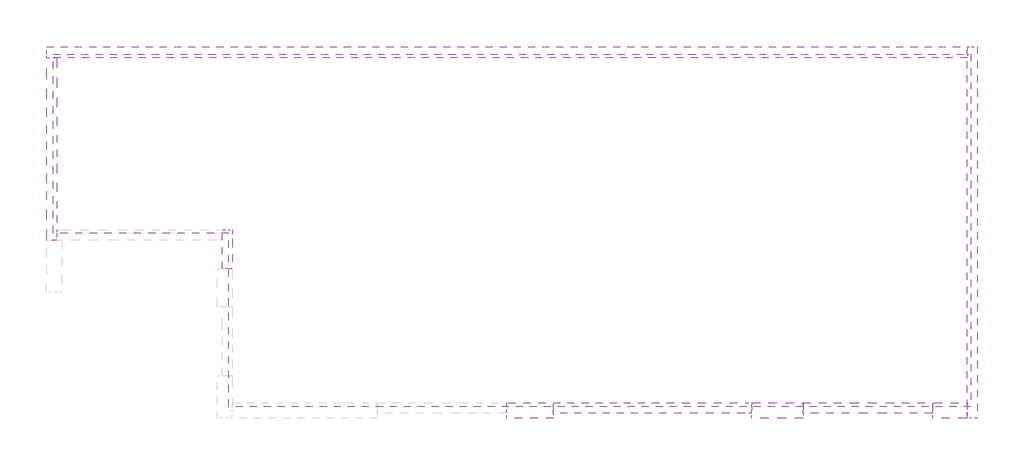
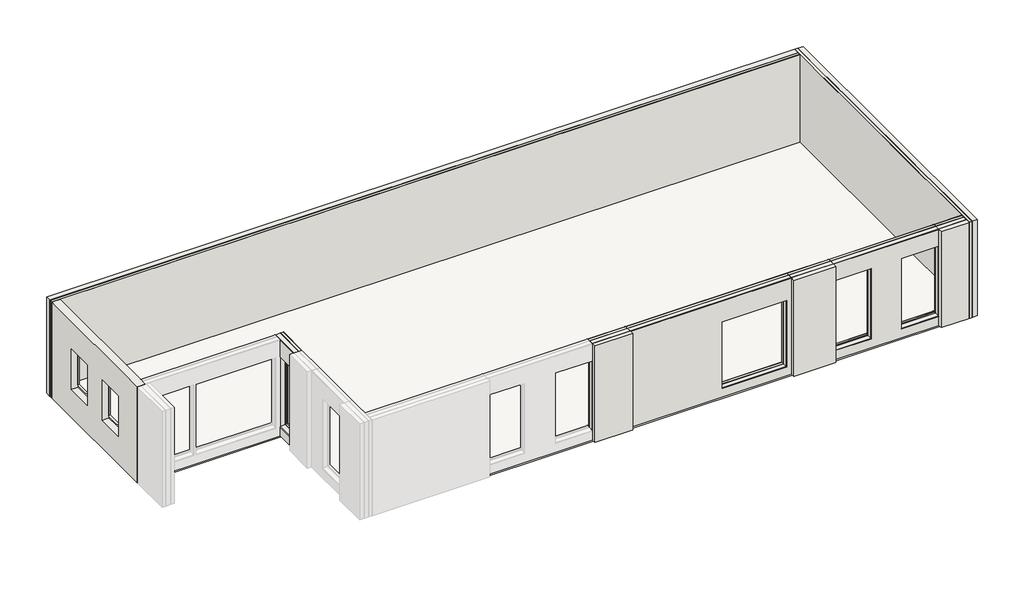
# One storey, part 2 of 2: 9 walls, 1 proxy, 1 slab.
"""IFC4 building model written with IfcOpenShell, lengths in millimetres."""

from ifc_helpers import new_model, si_unit, frame, origin, place, context, project, spatial, polyline, outline, extrude, faceted_brep, element, save

model = new_model("IFC4")

# Units and contexts
model_context = context("Model", 3, world=origin())
ifc_project = project(units=[si_unit("LENGTHUNIT", "METRE", prefix="MILLI")], contexts=[model_context])

# Site, building, storey
site = spatial("IfcSite", under=ifc_project)
building = spatial("IfcBuilding", under=site)
storey = spatial("IfcBuildingStorey", under=building, Name="Dalle T.O.", Elevation=-4000.0)

# Proxy
placement = place(None, origin())
element("IfcBuildingElementProxy", 1, Name="Generic Models", at=placement, inside=storey, context=model_context, shape_type="SweptSolid", body=[
    extrude(outline(polyline([(1777.6156007, -1842.7637486), (1907.6156007, -1842.7637486), (1907.6156007, -14108.5662223), (1777.6156007, -14108.5662223), (1777.6156007, -1842.7637486)])), frame((0.0, 0.0, -400.0), z_axis=(0.0, 0.0, 1.0), x_axis=(1.0, 0.0, 0.0)), (0.0, 0.0, 1.0), 380.0),
])

# Slab
element("IfcSlab", 2, ObjectType="Sols - Sol - A chape 6 + isolant 12 + dalle ba 15 + tout venant 30", at=placement, inside=storey, context=model_context, shape_type="SweptSolid", body=[
    extrude(outline(polyline([(-30017.0149756, -8083.0211289), (-30017.0149756, -1842.7637486), (1907.6156007, -1842.7637486), (1907.6156007, -14108.5662223), (-23908.2803137, -14108.5662223), (-23908.2803137, -8083.0211289), (-30017.0149756, -8083.0211289)])), frame((0.0, 0.0, -80.0), z_axis=(0.0, 0.0, 1.0), x_axis=(1.0, 0.0, 0.0)), (0.0, 0.0, 1.0), 60.0),
    extrude(outline(polyline([(-30017.0149756, -8083.0211289), (-30017.0149756, -1842.7637486), (1907.6156007, -1842.7637486), (1907.6156007, -14108.5662223), (-23908.2803137, -14108.5662223), (-23908.2803137, -8083.0211289), (-30017.0149756, -8083.0211289)])), frame((0.0, 0.0, -200.0), z_axis=(0.0, 0.0, 1.0), x_axis=(1.0, 0.0, 0.0)), (0.0, 0.0, 1.0), 120.0),
    extrude(outline(polyline([(-30017.0149756, -8083.0211289), (-30017.0149756, -1842.7637486), (1907.6156007, -1842.7637486), (1907.6156007, -14108.5662223), (-23908.2803137, -14108.5662223), (-23908.2803137, -8083.0211289), (-30017.0149756, -8083.0211289)])), frame((0.0, 0.0, -350.0), z_axis=(0.0, 0.0, 1.0), x_axis=(1.0, 0.0, 0.0)), (0.0, 0.0, 1.0), 150.0),
    extrude(outline(polyline([(-30017.0149756, -8083.0211289), (-30017.0149756, -1842.7637486), (1907.6156007, -1842.7637486), (1907.6156007, -14108.5662223), (-23908.2803137, -14108.5662223), (-23908.2803137, -8083.0211289), (-30017.0149756, -8083.0211289)])), frame((0.0, 0.0, -650.0), z_axis=(0.0, 0.0, 1.0), x_axis=(1.0, 0.0, 0.0)), (0.0, 0.0, 1.0), 300.0),
])

# Walls
element("IfcWall", 3, ObjectType="Murs - Mur de base - A Enduit 2 + Béton 20 + vide 1 +  Doublage 13", at=placement, inside=storey, context=model_context, shape_type="SweptSolid", body=[
    extrude(outline(polyline([(3950.0, -5718.4606208), (3950.0, -12618.5500393), (-400.0, -12618.5500393), (-400.0, -5718.4606208), (3950.0, -5718.4606208)]), holes=[polyline([(3000.0, -5934.6455383), (0.0, -5934.6455383), (0.0, -8694.6455383), (3000.0, -8694.6455383), (3000.0, -5934.6455383)])]), frame((0.0, -14338.5662223, 0.0), z_axis=(0.0, 1.0, 0.0), x_axis=(0.0, 0.0, 1.0)), (0.0, 0.0, 1.0), 20.0),
    extrude(outline(polyline([(3950.0, -5718.4606208), (3950.0, -12618.5500393), (-400.0, -12618.5500393), (-400.0, -5718.4606208), (3950.0, -5718.4606208)]), holes=[polyline([(3000.0, -5934.6455383), (0.0, -5934.6455383), (0.0, -8694.6455383), (3000.0, -8694.6455383), (3000.0, -5934.6455383)])]), frame((0.0, -14318.5662223, 0.0), z_axis=(0.0, 1.0, 0.0), x_axis=(0.0, 0.0, 1.0)), (0.0, 0.0, 1.0), 200.0),
    extrude(outline(polyline([(3950.0, -5718.4606208), (3950.0, -12618.5500393), (-400.0, -12618.5500393), (-400.0, -5718.4606208), (3950.0, -5718.4606208)]), holes=[polyline([(3000.0, -5934.6455383), (0.0, -5934.6455383), (0.0, -8694.6455383), (3000.0, -8694.6455383), (3000.0, -5934.6455383)])]), frame((0.0, -14118.5662223, 0.0), z_axis=(0.0, 1.0, 0.0), x_axis=(0.0, 0.0, 1.0)), (0.0, 0.0, 1.0), 10.0),
    extrude(outline(polyline([(3950.0, -5718.4606208), (3950.0, -12618.5500393), (-400.0, -12618.5500393), (-400.0, -5718.4606208), (3950.0, -5718.4606208)]), holes=[polyline([(3000.0, -5934.6455383), (0.0, -5934.6455383), (0.0, -8694.6455383), (3000.0, -8694.6455383), (3000.0, -5934.6455383)])]), frame((0.0, -14108.5662223, 0.0), z_axis=(0.0, 1.0, 0.0), x_axis=(0.0, 0.0, 1.0)), (0.0, 0.0, 1.0), 120.0),
    extrude(outline(polyline([(3950.0, -5718.4606208), (3950.0, -12618.5500393), (-400.0, -12618.5500393), (-400.0, -5718.4606208), (3950.0, -5718.4606208)]), holes=[polyline([(3000.0, -5934.6455383), (0.0, -5934.6455383), (0.0, -8694.6455383), (3000.0, -8694.6455383), (3000.0, -5934.6455383)])]), frame((0.0, -13988.5662223, 0.0), z_axis=(0.0, 1.0, 0.0), x_axis=(0.0, 0.0, 1.0)), (0.0, 0.0, 1.0), 10.0),
])
element("IfcWall", 4, ObjectType="Murs - Mur de base - A Enduit 2 + Béton 20 + vide 1 +  Doublage 13", at=placement, inside=storey, context=model_context, shape_type="Brep", body=[
    faceted_brep([(-3920.1625689, -14338.5662223, 3950.0), (577.5549073, -14338.5662223, 3950.0), (577.5549073, -14318.5662223, 3950.0), (-3920.1625689, -14318.5662223, 3950.0), (-3920.1625689, -14338.5662223, -400.0), (-3920.1625689, -14318.5662223, -400.0), (577.5549073, -14318.5662223, -400.0), (577.5549073, -14338.5662223, -400.0), (-3920.1625689, -14338.5662223, 3185.0), (-2320.1625689, -14338.5662223, 3185.0), (-2320.1625689, -14338.5662223, 5.5708141), (-3920.1625689, -14338.5662223, 5.5708141), (577.5549073, -14338.5662223, 5.5708141), (-1022.3843993, -14338.5662223, 5.5708141), (-1022.3843993, -14338.5662223, 3185.0), (577.5549073, -14338.5662223, 3185.0), (577.5549073, -14318.5662223, 3185.0), (577.5549073, -14318.5662223, 7.6728988), (-1022.3843993, -14318.5662223, 3185.0), (-1022.3843993, -14318.5662223, 7.6728988), (-3920.1625689, -14318.5662223, 7.6728988), (-2320.1625689, -14318.5662223, 7.6728988), (-2320.1625689, -14318.5662223, 3185.0), (-3920.1625689, -14318.5662223, 3185.0)], [[[0, 1, 2, 3]], [[4, 5, 6, 7]], [[1, 0, 8, 9, 10, 11, 4, 7, 12, 13, 14, 15]], [[2, 1, 15, 16]], [[7, 6, 17, 12]], [[3, 2, 16, 18, 19, 17, 6, 5, 20, 21, 22, 23]], [[0, 3, 23, 8]], [[5, 4, 11, 20]], [[10, 9, 22, 21]], [[9, 8, 23, 22]], [[11, 10, 21, 20]], [[14, 18, 16, 15]], [[19, 13, 12, 17]], [[18, 14, 13, 19]]]),
    faceted_brep([(-3920.1625689, -14318.5662223, 3950.0), (577.5549073, -14318.5662223, 3950.0), (577.5549073, -14118.5662223, 3950.0), (-3920.1625689, -14118.5662223, 3950.0), (-3920.1625689, -14318.5662223, -400.0), (-3920.1625689, -14118.5662223, -400.0), (577.5549073, -14118.5662223, -400.0), (577.5549073, -14318.5662223, -400.0), (-3920.1625689, -14318.5662223, 3185.0), (-2320.1625689, -14318.5662223, 3185.0), (-2320.1625689, -14318.5662223, 7.6728988), (-3920.1625689, -14318.5662223, 7.6728988), (577.5549073, -14318.5662223, 7.6728988), (-1022.3843993, -14318.5662223, 7.6728988), (-1022.3843993, -14318.5662223, 3185.0), (577.5549073, -14318.5662223, 3185.0), (577.5549073, -14118.5662223, 3185.0), (577.5549073, -14118.5662223, 28.6937459), (-1022.3843993, -14118.5662223, 3185.0), (-1022.3843993, -14118.5662223, 28.6937459), (-3920.1625689, -14118.5662223, 28.6937459), (-2320.1625689, -14118.5662223, 28.6937459), (-2320.1625689, -14118.5662223, 3185.0), (-3920.1625689, -14118.5662223, 3185.0)], [[[0, 1, 2, 3]], [[4, 5, 6, 7]], [[1, 0, 8, 9, 10, 11, 4, 7, 12, 13, 14, 15]], [[2, 1, 15, 16]], [[7, 6, 17, 12]], [[3, 2, 16, 18, 19, 17, 6, 5, 20, 21, 22, 23]], [[0, 3, 23, 8]], [[5, 4, 11, 20]], [[10, 9, 22, 21]], [[9, 8, 23, 22]], [[11, 10, 21, 20]], [[14, 18, 16, 15]], [[19, 13, 12, 17]], [[18, 14, 13, 19]]]),
    faceted_brep([(-3920.1625689, -14118.5662223, 3950.0), (577.5549073, -14118.5662223, 3950.0), (577.5549073, -14108.5662223, 3950.0), (-3920.1625689, -14108.5662223, 3950.0), (-3920.1625689, -14118.5662223, -400.0), (-3920.1625689, -14108.5662223, -400.0), (577.5549073, -14108.5662223, -400.0), (577.5549073, -14118.5662223, -400.0), (-3920.1625689, -14118.5662223, 3185.0), (-2320.1625689, -14118.5662223, 3185.0), (-2320.1625689, -14118.5662223, 28.6937459), (-3920.1625689, -14118.5662223, 28.6937459), (577.5549073, -14118.5662223, 28.6937459), (-1022.3843993, -14118.5662223, 28.6937459), (-1022.3843993, -14118.5662223, 3185.0), (577.5549073, -14118.5662223, 3185.0), (577.5549073, -14108.5662223, 3185.0), (577.5549073, -14108.5662223, 29.7447882), (-1022.3843993, -14108.5662223, 3185.0), (-1022.3843993, -14108.5662223, 29.7447882), (-3920.1625689, -14108.5662223, 29.7447882), (-2320.1625689, -14108.5662223, 29.7447882), (-2320.1625689, -14108.5662223, 3185.0), (-3920.1625689, -14108.5662223, 3185.0)], [[[0, 1, 2, 3]], [[4, 5, 6, 7]], [[1, 0, 8, 9, 10, 11, 4, 7, 12, 13, 14, 15]], [[2, 1, 15, 16]], [[7, 6, 17, 12]], [[3, 2, 16, 18, 19, 17, 6, 5, 20, 21, 22, 23]], [[0, 3, 23, 8]], [[5, 4, 11, 20]], [[10, 9, 22, 21]], [[9, 8, 23, 22]], [[11, 10, 21, 20]], [[14, 18, 16, 15]], [[19, 13, 12, 17]], [[18, 14, 13, 19]]]),
    faceted_brep([(-3920.1625689, -14108.5662223, 3950.0), (577.5549073, -14108.5662223, 3950.0), (577.5549073, -13988.5662223, 3950.0), (-3920.1625689, -13988.5662223, 3950.0), (-3920.1625689, -14108.5662223, -400.0), (-3920.1625689, -13988.5662223, -400.0), (577.5549073, -13988.5662223, -400.0), (577.5549073, -14108.5662223, -400.0), (-3920.1625689, -14108.5662223, 3185.0), (-2320.1625689, -14108.5662223, 3185.0), (-2320.1625689, -14108.5662223, 29.7447882), (-3920.1625689, -14108.5662223, 29.7447882), (577.5549073, -14108.5662223, 29.7447882), (-1022.1343993, -14108.5662223, 29.7447882), (-1022.1343993, -14108.5662223, 3185.0), (577.5549073, -14108.5662223, 3185.0), (577.5549073, -14078.5662223, 3185.0), (577.5549073, -14078.5662223, 3195.0), (577.5549073, -14028.5662223, 3195.0), (577.5549073, -14028.5662223, 3235.0), (577.5549073, -13988.5662223, 3235.0), (577.5549073, -13988.5662223, 35.0), (577.5549073, -14058.5662223, 35.0), (-1072.1343993, -13988.5662223, 3235.0), (-1072.1343993, -13988.5662223, 35.0), (-3920.1625689, -13988.5662223, 35.0), (-2270.1625689, -13988.5662223, 35.0), (-2270.1625689, -13988.5662223, 3235.0), (-3920.1625689, -13988.5662223, 3235.0), (-3920.1625689, -14028.5662223, 3235.0), (-3920.1625689, -14028.5662223, 3195.0), (-3920.1625689, -14078.5662223, 3195.0), (-3920.1625689, -14078.5662223, 3185.0), (-3920.1625689, -14058.5662223, 35.0), (-2320.1625689, -14078.5662223, 3185.0), (-2320.1625689, -14078.5662223, 35.0), (-2320.1625689, -14058.5662223, 35.0), (-2310.1625689, -14078.5662223, 35.0), (-2310.1625689, -14028.5662223, 35.0), (-2270.1625689, -14028.5662223, 35.0), (-2270.1625689, -14028.5662223, 3235.0), (-2310.1625689, -14028.5662223, 3195.0), (-2310.1625689, -14078.5662223, 3195.0), (-1022.1343993, -14078.5662223, 35.0), (-1022.1343993, -14058.5662223, 35.0), (-1072.1343993, -14028.5662223, 35.0), (-1032.1343993, -14028.5662223, 35.0), (-1032.1343993, -14078.5662223, 35.0), (-1022.1343993, -14078.5662223, 3185.0), (-1072.1343993, -14028.5662223, 3235.0), (-1032.1343993, -14028.5662223, 3195.0), (-1032.1343993, -14078.5662223, 3195.0)], [[[0, 1, 2, 3]], [[4, 5, 6, 7]], [[1, 0, 8, 9, 10, 11, 4, 7, 12, 13, 14, 15]], [[2, 1, 15, 16, 17, 18, 19, 20]], [[7, 6, 21, 22, 12]], [[3, 2, 20, 23, 24, 21, 6, 5, 25, 26, 27, 28]], [[0, 3, 28, 29, 30, 31, 32, 8]], [[5, 4, 11, 33, 25]], [[10, 9, 34, 35, 36]], [[26, 25, 33, 36, 35, 37, 38, 39]], [[9, 8, 32, 34]], [[11, 10, 36, 33]], [[27, 26, 39, 40]], [[30, 29, 40, 39, 38, 41]], [[38, 37, 42, 41]], [[32, 31, 42, 37, 35, 34]], [[28, 27, 40, 29]], [[31, 30, 41, 42]], [[43, 44, 22, 21, 24, 45, 46, 47]], [[14, 48, 16, 15]], [[22, 44, 13, 12]], [[46, 45, 49, 19, 18, 50]], [[43, 47, 51, 17, 16, 48]], [[19, 49, 23, 20]], [[51, 50, 18, 17]], [[49, 45, 24, 23]], [[47, 46, 50, 51]], [[44, 43, 48, 14, 13]]]),
    faceted_brep([(-3920.1625689, -13988.5662223, 3950.0), (577.5549073, -13988.5662223, 3950.0), (577.5549073, -13978.5662223, 3950.0), (-3920.1625689, -13978.5662223, 3950.0), (-3920.1625689, -13988.5662223, -400.0), (-3920.1625689, -13978.5662223, -400.0), (577.5549073, -13978.5662223, -400.0), (577.5549073, -13988.5662223, -400.0), (-3920.1625689, -13988.5662223, 3235.0), (-2270.1625689, -13988.5662223, 3235.0), (-2270.1625689, -13988.5662223, 35.0), (-3920.1625689, -13988.5662223, 35.0), (577.5549073, -13988.5662223, 35.0), (-1072.3843993, -13988.5662223, 35.0), (-1072.3843993, -13988.5662223, 3235.0), (577.5549073, -13988.5662223, 3235.0), (577.5549073, -13978.5662223, 3235.0), (577.5549073, -13978.5662223, 35.0), (-1072.3843993, -13978.5662223, 3235.0), (-1072.3843993, -13978.5662223, 35.0), (-1022.3843993, -13978.5662223, 35.0), (-3920.1625689, -13978.5662223, 35.0), (-2320.1625689, -13978.5662223, 35.0), (-2270.1625689, -13978.5662223, 35.0), (-2270.1625689, -13978.5662223, 3235.0), (-3920.1625689, -13978.5662223, 3235.0)], [[[0, 1, 2, 3]], [[4, 5, 6, 7]], [[1, 0, 8, 9, 10, 11, 4, 7, 12, 13, 14, 15]], [[2, 1, 15, 16]], [[7, 6, 17, 12]], [[3, 2, 16, 18, 19, 20, 17, 6, 5, 21, 22, 23, 24, 25]], [[0, 3, 25, 8]], [[5, 4, 11, 21]], [[11, 10, 23, 22, 21]], [[10, 9, 24, 23]], [[9, 8, 25, 24]], [[19, 13, 12, 17, 20]], [[14, 18, 16, 15]], [[13, 19, 18, 14]]]),
])
element("IfcWall", 5, ObjectType="Murs - Mur de base - A  Béton 22 + vide 1 +  Doublage 14", at=placement, inside=storey, context=model_context, shape_type="SweptSolid", body=[
    extrude(outline(polyline([(2137.6156007, -14508.5662223), (1917.6156007, -14508.5662223), (1917.6156007, -1582.7637486), (2137.6156007, -1582.7637486), (2137.6156007, -14508.5662223)])), frame((0.0, 0.0, -400.0), z_axis=(0.0, 0.0, 1.0), x_axis=(1.0, 0.0, 0.0)), (0.0, 0.0, 1.0), 4350.0),
    extrude(outline(polyline([(1917.6156007, -14508.5662223), (1907.6156007, -14508.5662223), (1907.6156007, -1582.7637486), (1917.6156007, -1582.7637486), (1917.6156007, -14508.5662223)])), frame((0.0, 0.0, -400.0), z_axis=(0.0, 0.0, 1.0), x_axis=(1.0, 0.0, 0.0)), (0.0, 0.0, 1.0), 4350.0),
    extrude(outline(polyline([(-14508.5662223, 3950.0), (-1582.7637486, 3950.0), (-1582.7637486, -400.0), (-1842.7637486, -400.0), (-1842.7637486, -20.0), (-14108.5662223, -20.0), (-14108.5662223, -400.0), (-14508.5662223, -400.0), (-14508.5662223, 3950.0)])), frame((1787.6156007, 0.0, 0.0), z_axis=(1.0, 0.0, 0.0), x_axis=(0.0, 1.0, 0.0)), (0.0, 0.0, 1.0), 120.0),
    extrude(outline(polyline([(-14508.5662223, 3950.0), (-1582.7637486, 3950.0), (-1582.7637486, -400.0), (-1842.7637486, -400.0), (-1842.7637486, -20.0), (-14108.5662223, -20.0), (-14108.5662223, -400.0), (-14508.5662223, -400.0), (-14508.5662223, 3950.0)])), frame((1777.6156007, 0.0, 0.0), z_axis=(1.0, 0.0, 0.0), x_axis=(0.0, 1.0, 0.0)), (0.0, 0.0, 1.0), 10.0),
])
element("IfcWall", 6, ObjectType="Murs - Mur de base - A Parement pierre 19 + Béton 20 + vide 1 +   Doublage 14", at=placement, inside=storey, context=model_context, shape_type="SolidModel", body=[
    faceted_brep([(-5718.4606208, -14508.5662223, 3950.0), (-3920.1625689, -14508.5662223, 3950.0), (-3920.1625689, -14318.5662223, 3950.0), (-5718.4606208, -14318.5662223, 3950.0), (-5718.4606208, -14508.5662223, -400.0), (-5718.4606208, -14318.5662223, -400.0), (-3920.1625689, -14318.5662223, -400.0), (-3920.1625689, -14508.5662223, -400.0), (-3920.1625689, -14508.5662223, 0.0), (-3920.1625689, -14508.5662223, 3185.0), (-3920.1625689, -14318.5662223, 7.6728988), (-3920.1625689, -14318.5662223, 3185.0)], [[[0, 1, 2, 3]], [[4, 5, 6, 7]], [[1, 0, 4, 7, 8, 9]], [[2, 1, 9, 8, 7, 6, 10, 11]], [[3, 2, 11, 10, 6, 5]], [[0, 3, 5, 4]]]),
    faceted_brep([(-5718.4606208, -14318.5662223, 3950.0), (-3920.1625689, -14318.5662223, 3950.0), (-3920.1625689, -14118.5662223, 3950.0), (-5718.4606208, -14118.5662223, 3950.0), (-5718.4606208, -14318.5662223, -400.0), (-5718.4606208, -14118.5662223, -400.0), (-3920.1625689, -14118.5662223, -400.0), (-3920.1625689, -14318.5662223, -400.0), (-3920.1625689, -14318.5662223, 7.6728988), (-3920.1625689, -14318.5662223, 3185.0), (-3920.1625689, -14118.5662223, 28.6937459), (-3920.1625689, -14118.5662223, 3185.0)], [[[0, 1, 2, 3]], [[4, 5, 6, 7]], [[1, 0, 4, 7, 8, 9]], [[2, 1, 9, 8, 7, 6, 10, 11]], [[3, 2, 11, 10, 6, 5]], [[0, 3, 5, 4]]]),
    faceted_brep([(-5718.4606208, -14118.5662223, 3950.0), (-3920.1625689, -14118.5662223, 3950.0), (-3920.1625689, -14108.5662223, 3950.0), (-5718.4606208, -14108.5662223, 3950.0), (-5718.4606208, -14118.5662223, -400.0), (-5718.4606208, -14108.5662223, -400.0), (-3920.1625689, -14108.5662223, -400.0), (-3920.1625689, -14118.5662223, -400.0), (-3920.1625689, -14118.5662223, 28.6937459), (-3920.1625689, -14118.5662223, 3185.0), (-3920.1625689, -14108.5662223, 29.7447882), (-3920.1625689, -14108.5662223, 3185.0)], [[[0, 1, 2, 3]], [[4, 5, 6, 7]], [[1, 0, 4, 7, 8, 9]], [[2, 1, 9, 8, 7, 6, 10, 11]], [[3, 2, 11, 10, 6, 5]], [[0, 3, 5, 4]]]),
    faceted_brep([(-5718.4606208, -14108.5662223, 3950.0), (-3920.1625689, -14108.5662223, 3950.0), (-3920.1625689, -13988.5662223, 3950.0), (-5718.4606208, -13988.5662223, 3950.0), (-5718.4606208, -14108.5662223, -400.0), (-5718.4606208, -13988.5662223, -400.0), (-3920.1625689, -13988.5662223, -400.0), (-3920.1625689, -14108.5662223, -400.0), (-3920.1625689, -14108.5662223, 29.7447882), (-3920.1625689, -14108.5662223, 3185.0), (-3920.1625689, -13988.5662223, 35.0), (-3920.1625689, -14058.5662223, 35.0), (-3920.1625689, -14078.5662223, 35.0), (-3920.1625689, -14078.5662223, 3185.0), (-3920.1625689, -14078.5662223, 3195.0), (-3920.1625689, -14028.5662223, 3195.0), (-3920.1625689, -14028.5662223, 3235.0), (-3920.1625689, -13988.5662223, 3235.0), (-3970.1625689, -13988.5662223, 3235.0), (-3970.1625689, -13988.5662223, 35.0), (-3930.1625689, -14078.5662223, 35.0), (-3970.1625689, -14028.5662223, 35.0), (-3930.1625689, -14028.5662223, 35.0), (-3970.1625689, -14028.5662223, 3235.0), (-3930.1625689, -14028.5662223, 3195.0), (-3930.1625689, -14078.5662223, 3195.0)], [[[0, 1, 2, 3]], [[4, 5, 6, 7]], [[1, 0, 4, 7, 8, 9]], [[2, 1, 9, 8, 7, 6, 10, 11, 12, 13, 14, 15, 16, 17]], [[3, 2, 17, 18, 19, 10, 6, 5]], [[0, 3, 5, 4]], [[20, 12, 11, 10, 19, 21, 22]], [[22, 21, 23, 16, 15, 24]], [[12, 20, 25, 14, 13]], [[16, 23, 18, 17]], [[25, 24, 15, 14]], [[23, 21, 19, 18]], [[20, 22, 24, 25]]]),
    extrude(outline(polyline([(3950.0, -3920.1625689), (3950.0, -5718.4606208), (-400.0, -5718.4606208), (-400.0, -3920.1625689), (35.0, -3920.1625689), (35.0, -3970.1625689), (3235.0, -3970.1625689), (3235.0, -3920.1625689), (3950.0, -3920.1625689)])), frame((0.0, -13988.5662223, 0.0), z_axis=(0.0, 1.0, 0.0), x_axis=(0.0, 0.0, 1.0)), (0.0, 0.0, 1.0), 10.0),
])
element("IfcWall", 7, ObjectType="Murs - Mur de base - A Parement pierre 19 + Béton 20 + vide 1 +   Doublage 14", at=placement, inside=storey, context=model_context, shape_type="SolidModel", body=[
    faceted_brep([(577.5549073, -14508.5662223, 3950.0), (1777.6156007, -14508.5662223, 3950.0), (1777.6156007, -14318.5662223, 3950.0), (577.5549073, -14318.5662223, 3950.0), (577.5549073, -14508.5662223, -400.0), (577.5549073, -14318.5662223, -400.0), (1777.6156007, -14318.5662223, -400.0), (1777.6156007, -14508.5662223, -400.0), (577.5549073, -14508.5662223, 3185.0), (577.5549073, -14508.5662223, 0.0), (577.5549073, -14318.5662223, 7.6728988), (577.5549073, -14318.5662223, 3185.0)], [[[0, 1, 2, 3]], [[4, 5, 6, 7]], [[1, 0, 8, 9, 4, 7]], [[2, 1, 7, 6]], [[3, 2, 6, 5, 10, 11]], [[0, 3, 11, 10, 5, 4, 9, 8]]]),
    faceted_brep([(577.5549073, -14318.5662223, 3950.0), (1777.6156007, -14318.5662223, 3950.0), (1777.6156007, -14118.5662223, 3950.0), (577.5549073, -14118.5662223, 3950.0), (577.5549073, -14318.5662223, -400.0), (577.5549073, -14118.5662223, -400.0), (1777.6156007, -14118.5662223, -400.0), (1777.6156007, -14318.5662223, -400.0), (577.5549073, -14318.5662223, 3185.0), (577.5549073, -14318.5662223, 7.6728988), (577.5549073, -14118.5662223, 28.6937459), (577.5549073, -14118.5662223, 3185.0)], [[[0, 1, 2, 3]], [[4, 5, 6, 7]], [[1, 0, 8, 9, 4, 7]], [[2, 1, 7, 6]], [[3, 2, 6, 5, 10, 11]], [[0, 3, 11, 10, 5, 4, 9, 8]]]),
    faceted_brep([(577.5549073, -14118.5662223, 3950.0), (1777.6156007, -14118.5662223, 3950.0), (1777.6156007, -14108.5662223, 3950.0), (577.5549073, -14108.5662223, 3950.0), (577.5549073, -14118.5662223, -400.0), (577.5549073, -14108.5662223, -400.0), (1777.6156007, -14108.5662223, -400.0), (1777.6156007, -14118.5662223, -400.0), (577.5549073, -14118.5662223, 3185.0), (577.5549073, -14118.5662223, 28.6937459), (577.5549073, -14108.5662223, 29.7447882), (577.5549073, -14108.5662223, 3185.0)], [[[0, 1, 2, 3]], [[4, 5, 6, 7]], [[1, 0, 8, 9, 4, 7]], [[2, 1, 7, 6]], [[3, 2, 6, 5, 10, 11]], [[0, 3, 11, 10, 5, 4, 9, 8]]]),
    faceted_brep([(577.5549073, -14108.5662223, 3950.0), (1777.6156007, -14108.5662223, 3950.0), (1777.6156007, -13988.5662223, 3950.0), (577.5549073, -13988.5662223, 3950.0), (577.5549073, -14108.5662223, -400.0), (577.5549073, -13988.5662223, -400.0), (1777.6156007, -13988.5662223, -400.0), (1777.6156007, -14108.5662223, -400.0), (577.5549073, -14108.5662223, 3185.0), (577.5549073, -14108.5662223, 29.7447882), (577.5549073, -13988.5662223, 35.0), (627.6156007, -13988.5662223, 35.0), (627.6156007, -13988.5662223, 3235.0), (577.5549073, -13988.5662223, 3235.0), (577.5549073, -14028.5662223, 3235.0), (577.5549073, -14028.5662223, 3195.0), (577.5549073, -14078.5662223, 3195.0), (577.5549073, -14078.5662223, 3185.0), (577.5549073, -14078.5662223, 35.0), (577.5549073, -14058.5662223, 35.0), (587.6156007, -14028.5662223, 35.0), (627.6156007, -14028.5662223, 35.0), (587.6156007, -14078.5662223, 35.0), (627.6156007, -14028.5662223, 3235.0), (587.6156007, -14028.5662223, 3195.0), (587.6156007, -14078.5662223, 3195.0)], [[[0, 1, 2, 3]], [[4, 5, 6, 7]], [[1, 0, 8, 9, 4, 7]], [[2, 1, 7, 6]], [[3, 2, 6, 5, 10, 11, 12, 13]], [[0, 3, 13, 14, 15, 16, 17, 18, 19, 10, 5, 4, 9, 8]], [[20, 21, 11, 10, 19, 18, 22]], [[21, 23, 12, 11]], [[21, 20, 24, 15, 14, 23]], [[20, 22, 25, 24]], [[22, 18, 17, 16, 25]], [[12, 23, 14, 13]], [[24, 25, 16, 15]]]),
    extrude(outline(polyline([(3950.0, 1777.6156007), (3950.0, 577.5549073), (3235.0, 577.5549073), (3235.0, 627.6156007), (35.0, 627.6156007), (35.0, 577.5549073), (-400.0, 577.5549073), (-400.0, 1777.6156007), (3950.0, 1777.6156007)])), frame((0.0, -13988.5662223, 0.0), z_axis=(0.0, 1.0, 0.0), x_axis=(0.0, 0.0, 1.0)), (0.0, 0.0, 1.0), 10.0),
])
element("IfcWall", 8, ObjectType="Murs - Mur de base - A  Béton 25 + vide 1 + Doublage 15", at=placement, inside=storey, context=model_context, shape_type="SweptSolid", body=[
    extrude(outline(polyline([(1777.6156007, -1582.7637486), (1777.6156007, -1832.7637486), (-30247.0149756, -1832.7637486), (-30247.0149756, -1582.7637486), (1777.6156007, -1582.7637486)])), frame((0.0, 0.0, -400.0), z_axis=(0.0, 0.0, 1.0), x_axis=(1.0, 0.0, 0.0)), (0.0, 0.0, 1.0), 4350.0),
    extrude(outline(polyline([(1777.6156007, -1832.7637486), (1777.6156007, -1842.7637486), (-30247.0149756, -1842.7637486), (-30247.0149756, -1832.7637486), (1777.6156007, -1832.7637486)])), frame((0.0, 0.0, -400.0), z_axis=(0.0, 0.0, 1.0), x_axis=(1.0, 0.0, 0.0)), (0.0, 0.0, 1.0), 4350.0),
    extrude(outline(polyline([(1777.6156007, -1842.7637486), (1777.6156007, -1962.7637486), (-30247.0149756, -1962.7637486), (-30247.0149756, -1842.7637486), (1777.6156007, -1842.7637486)])), frame((0.0, 0.0, -400.0), z_axis=(0.0, 0.0, 1.0), x_axis=(1.0, 0.0, 0.0)), (0.0, 0.0, 1.0), 4350.0),
    extrude(outline(polyline([(1777.6156007, -1962.7637486), (1777.6156007, -1972.7637486), (-30247.0149756, -1972.7637486), (-30247.0149756, -1962.7637486), (1777.6156007, -1962.7637486)])), frame((0.0, 0.0, -400.0), z_axis=(0.0, 0.0, 1.0), x_axis=(1.0, 0.0, 0.0)), (0.0, 0.0, 1.0), 4350.0),
])
element("IfcWall", 9, ObjectType="Murs - Mur de base - A Parement pierre 19 + Béton 20 + vide 1 +   Doublage 14", at=placement, inside=storey, context=model_context, shape_type="SolidModel", body=[
    faceted_brep([(-14238.6355893, -14508.5662223, 3950.0), (-12618.5500393, -14508.5662223, 3950.0), (-12618.5500393, -14318.5662223, 3950.0), (-14238.6355893, -14318.5662223, 3950.0), (-14238.6355893, -14508.5662223, -400.0), (-14238.6355893, -14318.5662223, -400.0), (-12618.5500393, -14318.5662223, -400.0), (-12618.5500393, -14508.5662223, -400.0), (-14238.6355893, -14508.5662223, 3185.0), (-14238.6355893, -14508.5662223, 0.0), (-14238.6355893, -14318.5662223, 7.6728988), (-14238.6355893, -14318.5662223, 3185.0)], [[[0, 1, 2, 3]], [[4, 5, 6, 7]], [[1, 0, 8, 9, 4, 7]], [[2, 1, 7, 6]], [[3, 2, 6, 5, 10, 11]], [[0, 3, 11, 10, 5, 4, 9, 8]]]),
    faceted_brep([(-14238.6355893, -14318.5662223, 3950.0), (-12618.5500393, -14318.5662223, 3950.0), (-12618.5500393, -14118.5662223, 3950.0), (-14238.6355893, -14118.5662223, 3950.0), (-14238.6355893, -14318.5662223, -400.0), (-14238.6355893, -14118.5662223, -400.0), (-12618.5500393, -14118.5662223, -400.0), (-12618.5500393, -14318.5662223, -400.0), (-14238.6355893, -14318.5662223, 3185.0), (-14238.6355893, -14318.5662223, 7.6728988), (-14238.6355893, -14118.5662223, 28.6937459), (-14238.6355893, -14118.5662223, 3185.0)], [[[0, 1, 2, 3]], [[4, 5, 6, 7]], [[1, 0, 8, 9, 4, 7]], [[2, 1, 7, 6]], [[3, 2, 6, 5, 10, 11]], [[0, 3, 11, 10, 5, 4, 9, 8]]]),
    faceted_brep([(-14238.6355893, -14118.5662223, 3950.0), (-12618.5500393, -14118.5662223, 3950.0), (-12618.5500393, -14108.5662223, 3950.0), (-14238.6355893, -14108.5662223, 3950.0), (-14238.6355893, -14118.5662223, -400.0), (-14238.6355893, -14108.5662223, -400.0), (-12618.5500393, -14108.5662223, -400.0), (-12618.5500393, -14118.5662223, -400.0), (-14238.6355893, -14118.5662223, 3185.0), (-14238.6355893, -14118.5662223, 28.6937459), (-14238.6355893, -14108.5662223, 29.7447882), (-14238.6355893, -14108.5662223, 3185.0)], [[[0, 1, 2, 3]], [[4, 5, 6, 7]], [[1, 0, 8, 9, 4, 7]], [[2, 1, 7, 6]], [[3, 2, 6, 5, 10, 11]], [[0, 3, 11, 10, 5, 4, 9, 8]]]),
    faceted_brep([(-14238.6355893, -14108.5662223, 3950.0), (-12618.5500393, -14108.5662223, 3950.0), (-12618.5500393, -13988.5662223, 3950.0), (-14238.6355893, -13988.5662223, 3950.0), (-14238.6355893, -14108.5662223, -400.0), (-14238.6355893, -13988.5662223, -400.0), (-12618.5500393, -13988.5662223, -400.0), (-12618.5500393, -14108.5662223, -400.0), (-14238.6355893, -14108.5662223, 3185.0), (-14238.6355893, -14108.5662223, 29.7447882), (-14238.6355893, -13988.5662223, 35.0), (-14188.6355893, -13988.5662223, 35.0), (-14188.6355893, -13988.5662223, 3235.0), (-14238.6355893, -13988.5662223, 3235.0), (-14238.6355893, -14028.5662223, 3235.0), (-14238.6355893, -14028.5662223, 3195.0), (-14238.6355893, -14078.5662223, 3195.0), (-14238.6355893, -14078.5662223, 3185.0), (-14238.6355893, -14078.5662223, 35.0), (-14238.6355893, -14058.5662223, 35.0), (-14228.6355893, -14028.5662223, 35.0), (-14188.6355893, -14028.5662223, 35.0), (-14228.6355893, -14078.5662223, 35.0), (-14188.6355893, -14028.5662223, 3235.0), (-14228.6355893, -14028.5662223, 3195.0), (-14228.6355893, -14078.5662223, 3195.0)], [[[0, 1, 2, 3]], [[4, 5, 6, 7]], [[1, 0, 8, 9, 4, 7]], [[2, 1, 7, 6]], [[3, 2, 6, 5, 10, 11, 12, 13]], [[0, 3, 13, 14, 15, 16, 17, 18, 19, 10, 5, 4, 9, 8]], [[20, 21, 11, 10, 19, 18, 22]], [[21, 23, 12, 11]], [[21, 20, 24, 15, 14, 23]], [[20, 22, 25, 24]], [[22, 18, 17, 16, 25]], [[12, 23, 14, 13]], [[24, 25, 16, 15]]]),
    extrude(outline(polyline([(3950.0, -12618.5500393), (3950.0, -14238.6355893), (3235.0, -14238.6355893), (3235.0, -14188.6355893), (35.0, -14188.6355893), (35.0, -14238.6355893), (-400.0, -14238.6355893), (-400.0, -12618.5500393), (3950.0, -12618.5500393)])), frame((0.0, -13988.5662223, 0.0), z_axis=(0.0, 1.0, 0.0), x_axis=(0.0, 0.0, 1.0)), (0.0, 0.0, 1.0), 10.0),
])
element("IfcWall", 10, ObjectType="Murs - Mur de base - A Enduit 2 + Béton 20 + vide 1 +  Doublage 13", at=placement, inside=storey, context=model_context, shape_type="Brep", body=[
    faceted_brep([(-24138.2803137, -7953.0211289, 3950.0), (-24138.2803137, -9310.0211289, 3950.0), (-24118.2803137, -9310.0211289, 3950.0), (-24118.2803137, -7953.0211289, 3950.0), (-24138.2803137, -7953.0211289, -400.0), (-24118.2803137, -7953.0211289, -400.0), (-24118.2803137, -9310.0211289, -400.0), (-24138.2803137, -9310.0211289, -400.0), (-24138.2803137, -9310.0211289, 5.5708141), (-24138.2803137, -8310.0211289, 5.5708141), (-24138.2803137, -8310.0211289, 3185.0), (-24138.2803137, -9310.0211289, 3185.0), (-24118.2803137, -9310.0211289, 3185.0), (-24118.2803137, -9310.0211289, 7.6728988), (-24118.2803137, -8310.0211289, 3185.0), (-24118.2803137, -8310.0211289, 7.6728988)], [[[0, 1, 2, 3]], [[4, 5, 6, 7]], [[1, 0, 4, 7, 8, 9, 10, 11]], [[2, 1, 11, 12]], [[7, 6, 13, 8]], [[3, 2, 12, 14, 15, 13, 6, 5]], [[0, 3, 5, 4]], [[10, 14, 12, 11]], [[15, 9, 8, 13]], [[14, 10, 9, 15]]]),
    faceted_brep([(-24118.2803137, -7953.0211289, 3950.0), (-24118.2803137, -9310.0211289, 3950.0), (-23918.2803137, -9310.0211289, 3950.0), (-23918.2803137, -7953.0211289, 3950.0), (-24118.2803137, -7953.0211289, -400.0), (-23918.2803137, -7953.0211289, -400.0), (-23918.2803137, -9310.0211289, -400.0), (-24118.2803137, -9310.0211289, -400.0), (-24118.2803137, -9310.0211289, 7.6728988), (-24118.2803137, -8310.0211289, 7.6728988), (-24118.2803137, -8310.0211289, 3185.0), (-24118.2803137, -9310.0211289, 3185.0), (-23918.2803137, -9310.0211289, 3185.0), (-23918.2803137, -9310.0211289, 28.6937459), (-23918.2803137, -8310.0211289, 3185.0), (-23918.2803137, -8310.0211289, 28.6937459)], [[[0, 1, 2, 3]], [[4, 5, 6, 7]], [[1, 0, 4, 7, 8, 9, 10, 11]], [[2, 1, 11, 12]], [[7, 6, 13, 8]], [[3, 2, 12, 14, 15, 13, 6, 5]], [[0, 3, 5, 4]], [[10, 14, 12, 11]], [[15, 9, 8, 13]], [[14, 10, 9, 15]]]),
    faceted_brep([(-23918.2803137, -7953.0211289, 3950.0), (-23918.2803137, -9310.0211289, 3950.0), (-23908.2803137, -9310.0211289, 3950.0), (-23908.2803137, -7953.0211289, 3950.0), (-23918.2803137, -7953.0211289, -400.0), (-23908.2803137, -7953.0211289, -400.0), (-23908.2803137, -9310.0211289, -400.0), (-23918.2803137, -9310.0211289, -400.0), (-23918.2803137, -9310.0211289, 28.6937459), (-23918.2803137, -8310.0211289, 28.6937459), (-23918.2803137, -8310.0211289, 3185.0), (-23918.2803137, -9310.0211289, 3185.0), (-23908.2803137, -9310.0211289, 3185.0), (-23908.2803137, -9310.0211289, 29.7447882), (-23908.2803137, -8310.0211289, 3185.0), (-23908.2803137, -8310.0211289, 29.7447882)], [[[0, 1, 2, 3]], [[4, 5, 6, 7]], [[1, 0, 4, 7, 8, 9, 10, 11]], [[2, 1, 11, 12]], [[7, 6, 13, 8]], [[3, 2, 12, 14, 15, 13, 6, 5]], [[0, 3, 5, 4]], [[10, 14, 12, 11]], [[15, 9, 8, 13]], [[14, 10, 9, 15]]]),
    faceted_brep([(-23908.2803137, -7953.0211289, 3950.0), (-23908.2803137, -9310.0211289, 3950.0), (-23788.2803137, -9310.0211289, 3950.0), (-23788.2803137, -7953.0211289, 3950.0), (-23908.2803137, -7953.0211289, -400.0), (-23788.2803137, -7953.0211289, -400.0), (-23788.2803137, -9310.0211289, -400.0), (-23908.2803137, -9310.0211289, -400.0), (-23908.2803137, -9310.0211289, 29.7447882), (-23908.2803137, -8310.0211289, 29.7447882), (-23908.2803137, -8310.0211289, 3185.0), (-23908.2803137, -9310.0211289, 3185.0), (-23878.2803137, -9310.0211289, 3185.0), (-23878.2803137, -9310.0211289, 3195.0), (-23828.2803137, -9310.0211289, 3195.0), (-23828.2803137, -9310.0211289, 3235.0), (-23788.2803137, -9310.0211289, 3235.0), (-23788.2803137, -9310.0211289, 35.0), (-23858.2803137, -9310.0211289, 35.0), (-23788.2803137, -8260.0211289, 3235.0), (-23788.2803137, -8260.0211289, 35.0), (-23858.2803137, -8310.0211289, 35.0), (-23828.2803137, -8260.0211289, 35.0), (-23828.2803137, -8300.0211289, 35.0), (-23878.2803137, -8300.0211289, 35.0), (-23878.2803137, -8310.0211289, 35.0), (-23878.2803137, -8310.0211289, 3185.0), (-23828.2803137, -8260.0211289, 3235.0), (-23828.2803137, -8300.0211289, 3195.0), (-23878.2803137, -8300.0211289, 3195.0)], [[[0, 1, 2, 3]], [[4, 5, 6, 7]], [[1, 0, 4, 7, 8, 9, 10, 11]], [[2, 1, 11, 12, 13, 14, 15, 16]], [[7, 6, 17, 18, 8]], [[3, 2, 16, 19, 20, 17, 6, 5]], [[0, 3, 5, 4]], [[21, 18, 17, 20, 22, 23, 24, 25]], [[26, 12, 11, 10]], [[18, 21, 9, 8]], [[23, 22, 27, 15, 14, 28]], [[25, 24, 29, 13, 12, 26]], [[15, 27, 19, 16]], [[29, 28, 14, 13]], [[27, 22, 20, 19]], [[24, 23, 28, 29]], [[21, 25, 26, 10, 9]]]),
    faceted_brep([(-23788.2803137, -7953.0211289, 3950.0), (-23788.2803137, -9310.0211289, 3950.0), (-23778.2803137, -9310.0211289, 3950.0), (-23778.2803137, -7953.0211289, 3950.0), (-23788.2803137, -7953.0211289, -400.0), (-23778.2803137, -7953.0211289, -400.0), (-23778.2803137, -9310.0211289, -400.0), (-23788.2803137, -9310.0211289, -400.0), (-23788.2803137, -9310.0211289, 35.0), (-23788.2803137, -8260.0211289, 35.0), (-23788.2803137, -8260.0211289, 3235.0), (-23788.2803137, -9310.0211289, 3235.0), (-23778.2803137, -9310.0211289, 3235.0), (-23778.2803137, -9310.0211289, 35.0), (-23778.2803137, -8260.0211289, 3235.0), (-23778.2803137, -8260.0211289, 35.0), (-23778.2803137, -8310.0211289, 35.0)], [[[0, 1, 2, 3]], [[4, 5, 6, 7]], [[1, 0, 4, 7, 8, 9, 10, 11]], [[2, 1, 11, 12]], [[7, 6, 13, 8]], [[3, 2, 12, 14, 15, 16, 13, 6, 5]], [[0, 3, 5, 4]], [[15, 9, 8, 13, 16]], [[10, 14, 12, 11]], [[9, 15, 14, 10]]]),
])
element("IfcWall", 11, ObjectType="Murs - Mur de base - A Enduit 2 + Béton 20 + vide 1 +  Doublage 13", at=placement, inside=storey, context=model_context, shape_type="Brep", body=[
    faceted_brep([(-30247.0149756, -1972.7637486, 3950.0), (-30247.0149756, -1972.7637486, -400.0), (-30247.0149756, -8313.0211289, -400.0), (-30247.0149756, -8313.0211289, 3950.0), (-30247.0149756, -3416.9349077, 2700.0), (-30247.0149756, -4616.9349077, 2700.0), (-30247.0149756, -4616.9349077, 870.0), (-30247.0149756, -3416.9349077, 870.0), (-30247.0149756, -5715.7709585, 2700.0), (-30247.0149756, -6915.7709585, 2700.0), (-30247.0149756, -6915.7709585, 870.0), (-30247.0149756, -5715.7709585, 870.0), (-29887.0149756, -1972.7637486, -20.0), (-29887.0149756, -1972.7637486, 3950.0), (-29887.0149756, -7953.0211289, 3950.0), (-29887.0149756, -8313.0211289, 3950.0), (-29887.0149756, -8313.0211289, -400.0), (-29887.0149756, -8083.0211289, -400.0), (-29887.0149756, -8083.0211289, -20.0), (-29887.0149756, -3366.9349077, 2750.0), (-29887.0149756, -3366.9349077, 950.0), (-29887.0149756, -4666.9349077, 950.0), (-29887.0149756, -4666.9349077, 2750.0), (-29887.0149756, -5665.7709585, 2750.0), (-29887.0149756, -5665.7709585, 950.0), (-29887.0149756, -6965.7709585, 950.0), (-29887.0149756, -6965.7709585, 2750.0), (-30243.4832661, -8313.0211289, -400.0), (-30017.0149756, -1972.7637486, -400.0), (-30017.0149756, -8083.0211289, -400.0), (-30243.4832661, -8313.0211289, 3950.0), (-30017.0149756, -1972.7637486, -20.0), (-29987.0149756, -4616.9349077, 950.0), (-29967.0149756, -4616.9349077, 950.0), (-29967.0149756, -4616.9349077, 870.0), (-29987.0149756, -4616.9349077, 2700.0), (-29967.0149756, -3416.9349077, 870.0), (-29967.0149756, -3416.9349077, 950.0), (-29987.0149756, -3416.9349077, 950.0), (-29987.0149756, -3416.9349077, 2700.0), (-29987.0149756, -4626.9349077, 950.0), (-29957.0149756, -4626.9349077, 950.0), (-29957.0149756, -4666.9349077, 950.0), (-29957.0149756, -3366.9349077, 950.0), (-29957.0149756, -3406.9349077, 950.0), (-29987.0149756, -3406.9349077, 950.0), (-29957.0149756, -4666.9349077, 2750.0), (-29957.0149756, -4626.9349077, 2710.0), (-29957.0149756, -3406.9349077, 2710.0), (-29957.0149756, -3366.9349077, 2750.0), (-29987.0149756, -4626.9349077, 2710.0), (-29987.0149756, -3406.9349077, 2710.0), (-29987.0149756, -6915.7709585, 950.0), (-29967.0149756, -6915.7709585, 950.0), (-29967.0149756, -6915.7709585, 870.0), (-29987.0149756, -6915.7709585, 2700.0), (-29967.0149756, -5715.7709585, 870.0), (-29967.0149756, -5715.7709585, 950.0), (-29987.0149756, -5715.7709585, 950.0), (-29987.0149756, -5715.7709585, 2700.0), (-29987.0149756, -6925.7709585, 950.0), (-29957.0149756, -6925.7709585, 950.0), (-29957.0149756, -6965.7709585, 950.0), (-29957.0149756, -5665.7709585, 950.0), (-29957.0149756, -5705.7709585, 950.0), (-29987.0149756, -5705.7709585, 950.0), (-29957.0149756, -6965.7709585, 2750.0), (-29957.0149756, -6925.7709585, 2710.0), (-29957.0149756, -5705.7709585, 2710.0), (-29957.0149756, -5665.7709585, 2750.0), (-29987.0149756, -6925.7709585, 2710.0), (-29987.0149756, -5705.7709585, 2710.0), (-30017.0149756, -8083.0211289, -20.0)], [[[0, 1, 2, 3], [4, 5, 6, 7], [8, 9, 10, 11]], [[12, 13, 14, 15, 16, 17, 18], [19, 20, 21, 22], [23, 24, 25, 26]], [[27, 2, 1, 28, 29, 17, 16]], [[13, 0, 3, 30, 15, 14]], [[30, 3, 2, 27, 16, 15]], [[28, 1, 0, 13, 12, 31]], [[32, 33, 34, 6, 5, 35]], [[7, 36, 37, 38, 39, 4]], [[7, 6, 34, 36]], [[36, 34, 33, 37]], [[39, 35, 5, 4]], [[37, 33, 32, 40, 41, 42, 21, 20, 43, 44, 45, 38]], [[22, 21, 42, 46]], [[46, 42, 41, 47, 48, 44, 43, 49]], [[47, 41, 40, 50]], [[40, 32, 35, 39, 38, 45, 51, 50]], [[19, 22, 46, 49]], [[51, 48, 47, 50]], [[49, 43, 20, 19]], [[51, 45, 44, 48]], [[52, 53, 54, 10, 9, 55]], [[11, 56, 57, 58, 59, 8]], [[11, 10, 54, 56]], [[56, 54, 53, 57]], [[59, 55, 9, 8]], [[57, 53, 52, 60, 61, 62, 25, 24, 63, 64, 65, 58]], [[26, 25, 62, 66]], [[66, 62, 61, 67, 68, 64, 63, 69]], [[67, 61, 60, 70]], [[60, 52, 55, 59, 58, 65, 71, 70]], [[23, 26, 66, 69]], [[71, 68, 67, 70]], [[69, 63, 24, 23]], [[71, 65, 64, 68]], [[12, 18, 72, 31]], [[29, 72, 18, 17]], [[28, 31, 72, 29]]]),
])

save(model, "model.ifc")
